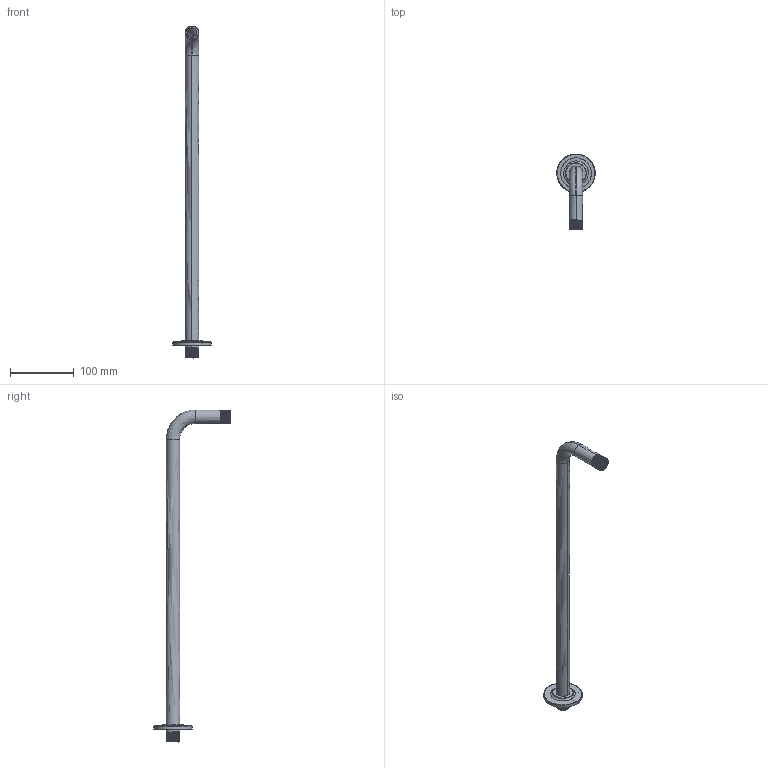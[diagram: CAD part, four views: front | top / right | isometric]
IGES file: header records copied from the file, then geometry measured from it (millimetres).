
Start section: SolidWorks IGES file using analytic representation for surfaces
Global section: file name: C:\Users\ccai\Desktop\CeliaC\Projects\0731-ADHOC-02292 Netural Files\R580SERIES.IGS; native system: SolidWorks 2023; preprocessor: SolidWorks 2023; author: ccai; date: 240719.132723; units: millimetre
Bounding box: 59.99 x 119.5 x 518.8 mm (x, y, z)
Surface area: 79461.7 mm2 (no closed solid volume)
Topology: 0 solids, 0 shells, 113 faces, 4292 edges, 4292 vertices
Faces by surface type: revolution 69, bspline 44
